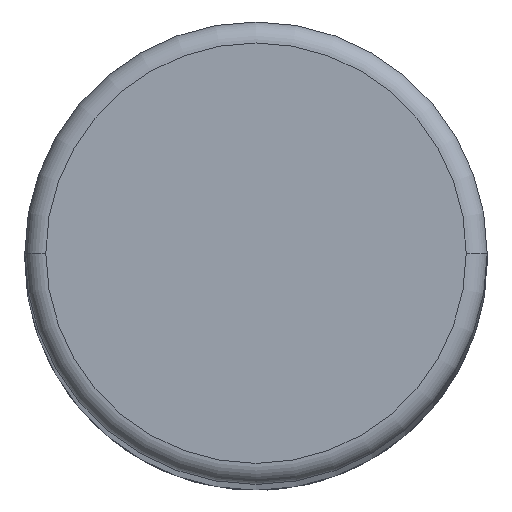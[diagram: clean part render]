
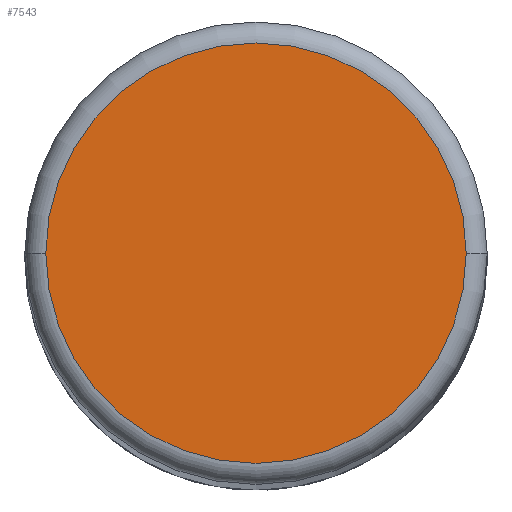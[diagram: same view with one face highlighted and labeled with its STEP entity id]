
A CAD part, top view. The second image highlights one B-rep face of the part: STEP entity #7543.
In plain terms, the highlighted planar face has unit normal (0, 0, 1).
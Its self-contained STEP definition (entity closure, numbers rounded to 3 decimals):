
#1585=CARTESIAN_POINT('',(0.,0.,73.75));
#1586=DIRECTION('',(0.,0.,1.));
#1587=DIRECTION('',(-1.,0.,0.));
#1588=AXIS2_PLACEMENT_3D('',#1585,#1586,#1587);
#1590=CARTESIAN_POINT('',(0.,0.,73.75));
#1591=DIRECTION('',(0.,0.,1.));
#1592=DIRECTION('',(1.,0.,0.));
#1593=AXIS2_PLACEMENT_3D('',#1590,#1591,#1592);
#5864=CARTESIAN_POINT('',(-10.,0.,73.75));
#5865=CARTESIAN_POINT('',(10.,0.,73.75));
#5866=VERTEX_POINT('',#5864);
#5867=VERTEX_POINT('',#5865);
#7533=CARTESIAN_POINT('',(0.,0.,73.75));
#7534=DIRECTION('',(0.,0.,1.));
#7535=DIRECTION('',(1.,0.,0.));
#7536=AXIS2_PLACEMENT_3D('',#7533,#7534,#7535);
#7537=PLANE('',#7536);
#7539=ORIENTED_EDGE('',*,*,#7538,.F.);
#7540=ORIENTED_EDGE('',*,*,#7523,.F.);
#7541=EDGE_LOOP('',(#7539,#7540));
#7542=FACE_OUTER_BOUND('',#7541,.F.);
#7543=ADVANCED_FACE('',(#7542),#7537,.T.);
#1589=CIRCLE('',#1588,10.);
#1594=CIRCLE('',#1593,10.);
#7523=EDGE_CURVE('',#5867,#5866,#1594,.T.);
#7538=EDGE_CURVE('',#5866,#5867,#1589,.T.);
